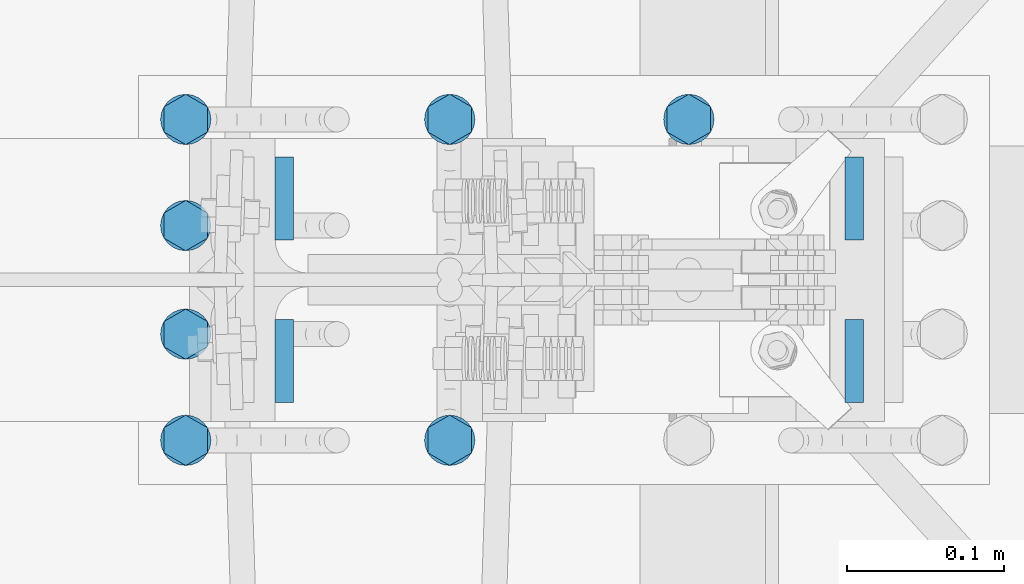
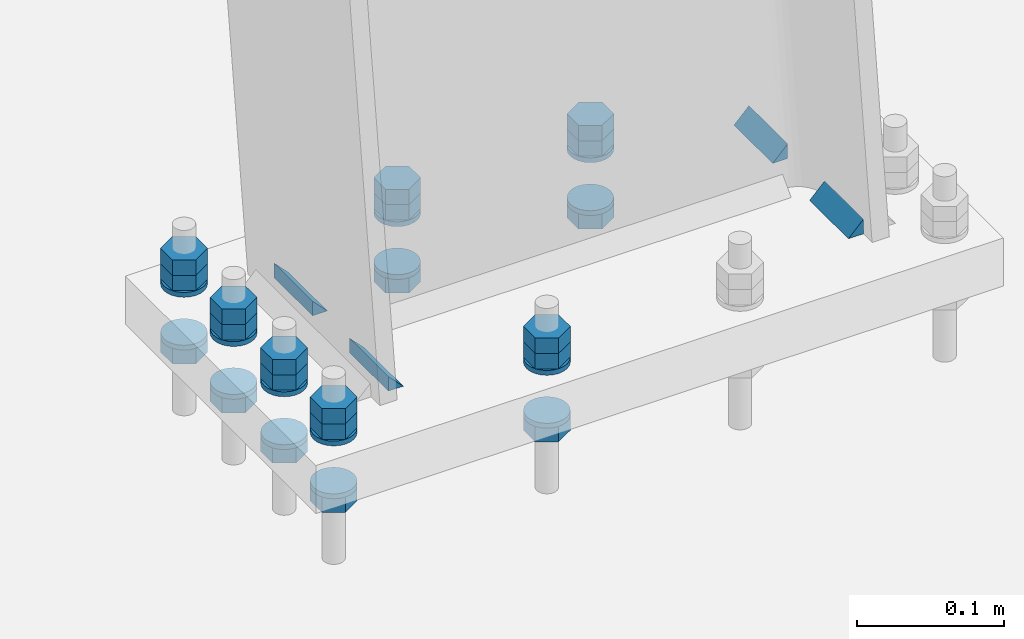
# One storey, part 34 of 72: 35 mechanical fasteners, 8 fasteners.
"""IFC4 building model written with IfcOpenShell, lengths in metres."""

from ifc_helpers import new_model, si_unit, frame, origin_with_axes, place, context, project, spatial, polyline, outline, extrude, type_object, element, save


model = new_model("IFC4")

# Units and contexts
model_context = context("Model", 3, precision=1e-05, world=origin_with_axes())
ifc_project = project(units=[si_unit("LENGTHUNIT", "METRE"), si_unit("AREAUNIT", "SQUARE_METRE"), si_unit("VOLUMEUNIT", "CUBIC_METRE"), si_unit("MASSUNIT", "GRAM", prefix="KILO"), si_unit("TIMEUNIT", "SECOND"), si_unit("PLANEANGLEUNIT", "RADIAN"), si_unit("SOLIDANGLEUNIT", "STERADIAN"), si_unit("THERMODYNAMICTEMPERATUREUNIT", "DEGREE_CELSIUS")], contexts=[model_context])

# Site, building, storey
placement_1 = place(None, origin_with_axes())
site = spatial("IfcSite", under=ifc_project, at=placement_1, Name="Italia", CompositionType="ELEMENT")
building = spatial("IfcBuilding", under=site, at=placement_1, Name="Pensilina", CompositionType="ELEMENT")
storey = spatial("IfcBuildingStorey", under=building, at=placement_1, Name="Storey 0", CompositionType="ELEMENT", Elevation=0.0)

# Fasteners
fastener_type_1 = type_object("IfcFastenerType", Name="Collegamento 0002_-197", PredefinedType="WELD")
placement_2 = place(placement_1, origin_with_axes())
fastener_1_placement = place(placement_2, origin_with_axes())
element("IfcFastener", 1, at=fastener_1_placement, inside=storey, type_object=fastener_type_1, Name="Collegamento 0002_-197", context=model_context, shape_type="SweptSolid", body=[
    extrude(outline(polyline([(0.0, 0.0, 0.0), (0.0118082, 0.0121734, 0.0), (0.0118082, 0.0, 0.0), (0.0, 0.0, 0.0)])), frame((1.10723, 5.25475, 0.103658), z_axis=(0.0, -1.0, 0.0), x_axis=(1.0, 0.0, 0.0)), (0.0, 0.0, 1.0), 0.0528002),
])
fastener_type_2 = type_object("IfcFastenerType", Name="Collegamento 0002_-197", PredefinedType="WELD")
fastener_2_placement = place(placement_2, origin_with_axes())
element("IfcFastener", 2, at=fastener_2_placement, inside=storey, type_object=fastener_type_2, Name="Collegamento 0002_-197", context=model_context, shape_type="SweptSolid", body=[
    extrude(outline(polyline([(0.0, 0.0, 0.0), (0.0118082, 0.0121734, 0.0), (0.0118082, 0.0, 0.0), (0.0, 0.0, 0.0)])), frame((0.756865, 5.20195, 0.103658), z_axis=(0.0, 1.0, 0.0), x_axis=(-1.0, 0.0, 0.0)), (0.0, 0.0, 1.0), 0.0528002),
])
fastener_type_3 = type_object("IfcFastenerType", Name="Collegamento 0002_-197", PredefinedType="WELD")
fastener_3_placement = place(placement_2, origin_with_axes())
element("IfcFastener", 3, at=fastener_3_placement, inside=storey, type_object=fastener_type_3, Name="Collegamento 0002_-197", context=model_context, shape_type="SweptSolid", body=[
    extrude(outline(polyline([(0.0, 0.0, 0.0), (0.0118082, 0.0121734, 0.0), (0.0118082, 0.0, 0.0), (0.0, 0.0, 0.0)])), frame((0.756865, 5.30525, 0.103658), z_axis=(0.0, 1.0, 0.0), x_axis=(-1.0, 0.0, 0.0)), (0.0, 0.0, 1.0), 0.0528002),
])
fastener_type_4 = type_object("IfcFastenerType", Name="Collegamento 0002_-197", PredefinedType="WELD")
fastener_4_placement = place(placement_2, origin_with_axes())
element("IfcFastener", 4, at=fastener_4_placement, inside=storey, type_object=fastener_type_4, Name="Collegamento 0002_-197", context=model_context, shape_type="SweptSolid", body=[
    extrude(outline(polyline([(0.0, 0.0, 0.0), (0.0118082, 0.0121734, 0.0), (0.0118082, 0.0, 0.0), (0.0, 0.0, 0.0)])), frame((1.10723, 5.35805, 0.103658), z_axis=(0.0, -1.0, 0.0), x_axis=(1.0, 0.0, 0.0)), (0.0, 0.0, 1.0), 0.0528002),
])
fastener_type_5 = type_object("IfcFastenerType", Name="Collegamento 0002_-197", PredefinedType="WELD")
fastener_5_placement = place(placement_2, origin_with_axes())
element("IfcFastener", 5, at=fastener_5_placement, inside=storey, type_object=fastener_type_5, Name="Collegamento 0002_-197", context=model_context, shape_type="SweptSolid", body=[
    extrude(outline(polyline([(0.0, 0.0, 0.0), (0.0118082, 0.0121734, 0.0), (0.0118082, 0.0, 0.0), (0.0, 0.0, 0.0)])), frame((1.10723, 5.25475, 0.103658), z_axis=(0.0, -1.0, 0.0), x_axis=(1.0, 0.0, 0.0)), (0.0, 0.0, 1.0), 0.0528002),
])
fastener_type_6 = type_object("IfcFastenerType", Name="Collegamento 0002_-197", PredefinedType="WELD")
fastener_6_placement = place(placement_2, origin_with_axes())
element("IfcFastener", 6, at=fastener_6_placement, inside=storey, type_object=fastener_type_6, Name="Collegamento 0002_-197", context=model_context, shape_type="SweptSolid", body=[
    extrude(outline(polyline([(0.0, 0.0, 0.0), (0.0118082, 0.0121734, 0.0), (0.0118082, 0.0, 0.0), (0.0, 0.0, 0.0)])), frame((0.756865, 5.20195, 0.103658), z_axis=(0.0, 1.0, 0.0), x_axis=(-1.0, 0.0, 0.0)), (0.0, 0.0, 1.0), 0.0528002),
])
fastener_type_7 = type_object("IfcFastenerType", Name="Collegamento 0002_-197", PredefinedType="WELD")
fastener_7_placement = place(placement_2, origin_with_axes())
element("IfcFastener", 7, at=fastener_7_placement, inside=storey, type_object=fastener_type_7, Name="Collegamento 0002_-197", context=model_context, shape_type="SweptSolid", body=[
    extrude(outline(polyline([(0.0, 0.0, 0.0), (0.0118082, 0.0121734, 0.0), (0.0118082, 0.0, 0.0), (0.0, 0.0, 0.0)])), frame((0.756865, 5.30525, 0.103658), z_axis=(0.0, 1.0, 0.0), x_axis=(-1.0, 0.0, 0.0)), (0.0, 0.0, 1.0), 0.0528002),
])
fastener_type_8 = type_object("IfcFastenerType", Name="Collegamento 0002_-197", PredefinedType="WELD")
fastener_8_placement = place(placement_2, origin_with_axes())
element("IfcFastener", 8, at=fastener_8_placement, inside=storey, type_object=fastener_type_8, Name="Collegamento 0002_-197", context=model_context, shape_type="SweptSolid", body=[
    extrude(outline(polyline([(0.0, 0.0, 0.0), (0.0118082, 0.0121734, 0.0), (0.0118082, 0.0, 0.0), (0.0, 0.0, 0.0)])), frame((1.10723, 5.35805, 0.103658), z_axis=(0.0, -1.0, 0.0), x_axis=(1.0, 0.0, 0.0)), (0.0, 0.0, 1.0), 0.0528002),
])

# Mechanical fasteners
mechanical_fastener_type_1 = type_object("IfcMechanicalFastenerType", Name="Collegamento 0002_-197", PredefinedType="BOLT")
mechanical_fastener_1_placement = place(placement_2, origin_with_axes())
element("IfcMechanicalFastener", 9, at=mechanical_fastener_1_placement, inside=storey, type_object=mechanical_fastener_type_1, Name="Collegamento 0002_-197", NominalDiameter=0.016, context=model_context, shape_type="SweptSolid", body=[
    extrude(outline(polyline([(0.0, 0.0, 0.0), (0.0160003, 0.0, 0.0), (0.0240002, -0.0138564, 0.0), (0.0160003, -0.0277128, 0.0), (0.0, -0.0277128, 0.0), (-0.0079999, -0.0138564, 0.0), (0.0, 0.0, 0.0)])), frame((0.674373, 5.374, 0.107708), z_axis=(0.0, 0.0, 1.0), x_axis=(0.0, 1.0, 0.0)), (0.0, 0.0, 1.0), 0.0128),
])
mechanical_fastener_type_2 = type_object("IfcMechanicalFastenerType", Name="Collegamento 0002_-197", PredefinedType="BOLT")
mechanical_fastener_2_placement = place(placement_2, origin_with_axes())
element("IfcMechanicalFastener", 10, at=mechanical_fastener_2_placement, inside=storey, type_object=mechanical_fastener_type_2, Name="Collegamento 0002_-197", NominalDiameter=0.016, context=model_context, shape_type="SweptSolid", body=[
    extrude(outline(polyline([(0.0, 0.0, 0.0), (0.0160003, 0.0, 0.0), (0.0240002, -0.0138564, 0.0), (0.0160003, -0.0277128, 0.0), (0.0, -0.0277128, 0.0), (-0.0079999, -0.0138564, 0.0), (0.0, 0.0, 0.0)])), frame((0.674373, 5.374, 0.120508), z_axis=(0.0, 0.0, 1.0), x_axis=(0.0, 1.0, 0.0)), (0.0, 0.0, 1.0), 0.0128),
])
mechanical_fastener_type_3 = type_object("IfcMechanicalFastenerType", Name="Collegamento 0002_-197", PredefinedType="BOLT")
mechanical_fastener_3_placement = place(placement_2, origin_with_axes())
element("IfcMechanicalFastener", 11, at=mechanical_fastener_3_placement, inside=storey, type_object=mechanical_fastener_type_3, Name="Collegamento 0002_-197", NominalDiameter=0.016, context=model_context, shape_type="SweptSolid", body=[
    extrude(outline(polyline([(0.0, 0.0, 0.0), (0.0160003, 0.0, 0.0), (0.0240002, -0.0138564, 0.0), (0.0160003, -0.0277128, 0.0), (0.0, -0.0277128, 0.0), (-0.0079999, -0.0138564, 0.0), (0.0, 0.0, 0.0)])), frame((0.674373, 5.374, 0.0469081), z_axis=(0.0, 0.0, 1.0), x_axis=(0.0, 1.0, 0.0)), (0.0, 0.0, 1.0), 0.0128),
])
mechanical_fastener_type_4 = type_object("IfcMechanicalFastenerType", Name="Collegamento 0002_-197", PredefinedType="BOLT")
mechanical_fastener_4_placement = place(placement_2, origin_with_axes())
element("IfcMechanicalFastener", 12, at=mechanical_fastener_4_placement, inside=storey, type_object=mechanical_fastener_type_4, Name="Collegamento 0002_-197", NominalDiameter=0.032, context=model_context, shape_type="SweptSolid", body=[
    extrude(outline(polyline([(0.0, 0.0, 0.0), (-0.000545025, -0.00414109, 0.0), (-0.00214338, -0.00800002, 0.0), (-0.00468588, -0.0113137, 0.0), (-0.0079999, -0.0138564, 0.0), (-0.0118585, -0.0154548, 0.0), (-0.0159998, -0.016, 0.0), (-0.0201411, -0.0154548, 0.0), (-0.0239997, -0.0138564, 0.0), (-0.0273137, -0.0113137, 0.0), (-0.0298562, -0.00800002, 0.0), (-0.0314546, -0.00414109, 0.0), (-0.0319996, 0.0, 0.0), (-0.0314546, 0.00414109, 0.0), (-0.0298562, 0.00800002, 0.0), (-0.0273137, 0.0113137, 0.0), (-0.0239997, 0.0138564, 0.0), (-0.0201411, 0.0154548, 0.0), (-0.0159998, 0.016, 0.0), (-0.0118585, 0.0154548, 0.0), (-0.0079999, 0.0138564, 0.0), (-0.00468588, 0.0113137, 0.0), (-0.00214338, 0.00800002, 0.0), (-0.000545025, 0.00414109, 0.0), (0.0, 0.0, 0.0)])), frame((0.68823, 5.398, 0.103708), z_axis=(0.0, 0.0, 1.0), x_axis=(0.0, 1.0, 0.0)), (0.0, 0.0, 1.0), 0.004),
])
mechanical_fastener_type_5 = type_object("IfcMechanicalFastenerType", Name="Collegamento 0002_-197", PredefinedType="BOLT")
mechanical_fastener_5_placement = place(placement_2, origin_with_axes())
element("IfcMechanicalFastener", 13, at=mechanical_fastener_5_placement, inside=storey, type_object=mechanical_fastener_type_5, Name="Collegamento 0002_-197", NominalDiameter=0.032, context=model_context, shape_type="SweptSolid", body=[
    extrude(outline(polyline([(0.0, 0.0, 0.0), (-0.000545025, -0.00414109, 0.0), (-0.00214338, -0.00800002, 0.0), (-0.00468588, -0.0113137, 0.0), (-0.0079999, -0.0138564, 0.0), (-0.0118585, -0.0154548, 0.0), (-0.0159998, -0.016, 0.0), (-0.0201411, -0.0154548, 0.0), (-0.0239997, -0.0138564, 0.0), (-0.0273137, -0.0113137, 0.0), (-0.0298562, -0.00800002, 0.0), (-0.0314546, -0.00414109, 0.0), (-0.0319996, 0.0, 0.0), (-0.0314546, 0.00414109, 0.0), (-0.0298562, 0.00800002, 0.0), (-0.0273137, 0.0113137, 0.0), (-0.0239997, 0.0138564, 0.0), (-0.0201411, 0.0154548, 0.0), (-0.0159998, 0.016, 0.0), (-0.0118585, 0.0154548, 0.0), (-0.0079999, 0.0138564, 0.0), (-0.00468588, 0.0113137, 0.0), (-0.00214338, 0.00800002, 0.0), (-0.000545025, 0.00414109, 0.0), (0.0, 0.0, 0.0)])), frame((0.68823, 5.398, 0.0597081), z_axis=(0.0, 0.0, 1.0), x_axis=(0.0, 1.0, 0.0)), (0.0, 0.0, 1.0), 0.004),
])
mechanical_fastener_type_6 = type_object("IfcMechanicalFastenerType", Name="Collegamento 0002_-197", PredefinedType="BOLT")
mechanical_fastener_6_placement = place(placement_2, origin_with_axes())
element("IfcMechanicalFastener", 14, at=mechanical_fastener_6_placement, inside=storey, type_object=mechanical_fastener_type_6, Name="Collegamento 0002_-197", NominalDiameter=0.0159998, context=model_context, shape_type="SweptSolid", body=[
    extrude(outline(polyline([(0.0, 0.0, 0.0), (0.0159998, 0.0, 0.0), (0.0239997, -0.0138564, 0.0), (0.0159998, -0.0277128, 0.0), (0.0, -0.0277128, 0.0), (-0.00800037, -0.0138564, 0.0), (0.0, 0.0, 0.0)])), frame((0.674373, 5.3065, 0.107708), z_axis=(0.0, 0.0, 1.0), x_axis=(0.0, 1.0, 0.0)), (0.0, 0.0, 1.0), 0.0128),
])
mechanical_fastener_type_7 = type_object("IfcMechanicalFastenerType", Name="Collegamento 0002_-197", PredefinedType="BOLT")
mechanical_fastener_7_placement = place(placement_2, origin_with_axes())
element("IfcMechanicalFastener", 15, at=mechanical_fastener_7_placement, inside=storey, type_object=mechanical_fastener_type_7, Name="Collegamento 0002_-197", NominalDiameter=0.0159998, context=model_context, shape_type="SweptSolid", body=[
    extrude(outline(polyline([(0.0, 0.0, 0.0), (0.0159998, 0.0, 0.0), (0.0239997, -0.0138564, 0.0), (0.0159998, -0.0277128, 0.0), (0.0, -0.0277128, 0.0), (-0.00800037, -0.0138564, 0.0), (0.0, 0.0, 0.0)])), frame((0.674373, 5.3065, 0.120508), z_axis=(0.0, 0.0, 1.0), x_axis=(0.0, 1.0, 0.0)), (0.0, 0.0, 1.0), 0.0128),
])
mechanical_fastener_type_8 = type_object("IfcMechanicalFastenerType", Name="Collegamento 0002_-197", PredefinedType="BOLT")
mechanical_fastener_8_placement = place(placement_2, origin_with_axes())
element("IfcMechanicalFastener", 16, at=mechanical_fastener_8_placement, inside=storey, type_object=mechanical_fastener_type_8, Name="Collegamento 0002_-197", NominalDiameter=0.0159998, context=model_context, shape_type="SweptSolid", body=[
    extrude(outline(polyline([(0.0, 0.0, 0.0), (0.0159998, 0.0, 0.0), (0.0239997, -0.0138564, 0.0), (0.0159998, -0.0277128, 0.0), (0.0, -0.0277128, 0.0), (-0.00800037, -0.0138564, 0.0), (0.0, 0.0, 0.0)])), frame((0.674373, 5.3065, 0.0469081), z_axis=(0.0, 0.0, 1.0), x_axis=(0.0, 1.0, 0.0)), (0.0, 0.0, 1.0), 0.0128),
])
mechanical_fastener_type_9 = type_object("IfcMechanicalFastenerType", Name="Collegamento 0002_-197", PredefinedType="BOLT")
mechanical_fastener_9_placement = place(placement_2, origin_with_axes())
element("IfcMechanicalFastener", 17, at=mechanical_fastener_9_placement, inside=storey, type_object=mechanical_fastener_type_9, Name="Collegamento 0002_-197", NominalDiameter=0.032, context=model_context, shape_type="SweptSolid", body=[
    extrude(outline(polyline([(0.0, 0.0, 0.0), (-0.000545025, -0.00414109, 0.0), (-0.00214338, -0.00800002, 0.0), (-0.00468588, -0.0113137, 0.0), (-0.0079999, -0.0138564, 0.0), (-0.0118585, -0.0154548, 0.0), (-0.0159998, -0.016, 0.0), (-0.0201411, -0.0154548, 0.0), (-0.0239997, -0.0138564, 0.0), (-0.0273137, -0.0113137, 0.0), (-0.0298562, -0.00800002, 0.0), (-0.0314546, -0.00414109, 0.0), (-0.0319996, 0.0, 0.0), (-0.0314546, 0.00414109, 0.0), (-0.0298562, 0.00800002, 0.0), (-0.0273137, 0.0113137, 0.0), (-0.0239997, 0.0138564, 0.0), (-0.0201411, 0.0154548, 0.0), (-0.0159998, 0.016, 0.0), (-0.0118585, 0.0154548, 0.0), (-0.0079999, 0.0138564, 0.0), (-0.00468588, 0.0113137, 0.0), (-0.00214338, 0.00800002, 0.0), (-0.000545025, 0.00414109, 0.0), (0.0, 0.0, 0.0)])), frame((0.68823, 5.3305, 0.103708), z_axis=(0.0, 0.0, 1.0), x_axis=(0.0, 1.0, 0.0)), (0.0, 0.0, 1.0), 0.004),
])
mechanical_fastener_type_10 = type_object("IfcMechanicalFastenerType", Name="Collegamento 0002_-197", PredefinedType="BOLT")
mechanical_fastener_10_placement = place(placement_2, origin_with_axes())
element("IfcMechanicalFastener", 18, at=mechanical_fastener_10_placement, inside=storey, type_object=mechanical_fastener_type_10, Name="Collegamento 0002_-197", NominalDiameter=0.032, context=model_context, shape_type="SweptSolid", body=[
    extrude(outline(polyline([(0.0, 0.0, 0.0), (-0.000545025, -0.00414109, 0.0), (-0.00214338, -0.00800002, 0.0), (-0.00468588, -0.0113137, 0.0), (-0.0079999, -0.0138564, 0.0), (-0.0118585, -0.0154548, 0.0), (-0.0159998, -0.016, 0.0), (-0.0201411, -0.0154548, 0.0), (-0.0239997, -0.0138564, 0.0), (-0.0273137, -0.0113137, 0.0), (-0.0298562, -0.00800002, 0.0), (-0.0314546, -0.00414109, 0.0), (-0.0319996, 0.0, 0.0), (-0.0314546, 0.00414109, 0.0), (-0.0298562, 0.00800002, 0.0), (-0.0273137, 0.0113137, 0.0), (-0.0239997, 0.0138564, 0.0), (-0.0201411, 0.0154548, 0.0), (-0.0159998, 0.016, 0.0), (-0.0118585, 0.0154548, 0.0), (-0.0079999, 0.0138564, 0.0), (-0.00468588, 0.0113137, 0.0), (-0.00214338, 0.00800002, 0.0), (-0.000545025, 0.00414109, 0.0), (0.0, 0.0, 0.0)])), frame((0.68823, 5.3305, 0.0597081), z_axis=(0.0, 0.0, 1.0), x_axis=(0.0, 1.0, 0.0)), (0.0, 0.0, 1.0), 0.004),
])
mechanical_fastener_type_11 = type_object("IfcMechanicalFastenerType", Name="Collegamento 0002_-197", PredefinedType="BOLT")
mechanical_fastener_11_placement = place(placement_2, origin_with_axes())
element("IfcMechanicalFastener", 19, at=mechanical_fastener_11_placement, inside=storey, type_object=mechanical_fastener_type_11, Name="Collegamento 0002_-197", NominalDiameter=0.0159998, context=model_context, shape_type="SweptSolid", body=[
    extrude(outline(polyline([(0.0, 0.0, 0.0), (0.0159998, 0.0, 0.0), (0.0240002, -0.0138564, 0.0), (0.0159998, -0.0277128, 0.0), (0.0, -0.0277128, 0.0), (-0.0079999, -0.0138564, 0.0), (0.0, 0.0, 0.0)])), frame((0.674373, 5.2375, 0.107708), z_axis=(0.0, 0.0, 1.0), x_axis=(0.0, 1.0, 0.0)), (0.0, 0.0, 1.0), 0.0128),
])
mechanical_fastener_type_12 = type_object("IfcMechanicalFastenerType", Name="Collegamento 0002_-197", PredefinedType="BOLT")
mechanical_fastener_12_placement = place(placement_2, origin_with_axes())
element("IfcMechanicalFastener", 20, at=mechanical_fastener_12_placement, inside=storey, type_object=mechanical_fastener_type_12, Name="Collegamento 0002_-197", NominalDiameter=0.0159998, context=model_context, shape_type="SweptSolid", body=[
    extrude(outline(polyline([(0.0, 0.0, 0.0), (0.0159998, 0.0, 0.0), (0.0240002, -0.0138564, 0.0), (0.0159998, -0.0277128, 0.0), (0.0, -0.0277128, 0.0), (-0.0079999, -0.0138564, 0.0), (0.0, 0.0, 0.0)])), frame((0.674373, 5.2375, 0.120508), z_axis=(0.0, 0.0, 1.0), x_axis=(0.0, 1.0, 0.0)), (0.0, 0.0, 1.0), 0.0128),
])
mechanical_fastener_type_13 = type_object("IfcMechanicalFastenerType", Name="Collegamento 0002_-197", PredefinedType="BOLT")
mechanical_fastener_13_placement = place(placement_2, origin_with_axes())
element("IfcMechanicalFastener", 21, at=mechanical_fastener_13_placement, inside=storey, type_object=mechanical_fastener_type_13, Name="Collegamento 0002_-197", NominalDiameter=0.0159998, context=model_context, shape_type="SweptSolid", body=[
    extrude(outline(polyline([(0.0, 0.0, 0.0), (0.0159998, 0.0, 0.0), (0.0240002, -0.0138564, 0.0), (0.0159998, -0.0277128, 0.0), (0.0, -0.0277128, 0.0), (-0.0079999, -0.0138564, 0.0), (0.0, 0.0, 0.0)])), frame((0.674373, 5.2375, 0.0469081), z_axis=(0.0, 0.0, 1.0), x_axis=(0.0, 1.0, 0.0)), (0.0, 0.0, 1.0), 0.0128),
])
mechanical_fastener_type_14 = type_object("IfcMechanicalFastenerType", Name="Collegamento 0002_-197", PredefinedType="BOLT")
mechanical_fastener_14_placement = place(placement_2, origin_with_axes())
element("IfcMechanicalFastener", 22, at=mechanical_fastener_14_placement, inside=storey, type_object=mechanical_fastener_type_14, Name="Collegamento 0002_-197", NominalDiameter=0.032, context=model_context, shape_type="SweptSolid", body=[
    extrude(outline(polyline([(0.0, 0.0, 0.0), (-0.000545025, -0.00414109, 0.0), (-0.00214338, -0.00800002, 0.0), (-0.00468588, -0.0113137, 0.0), (-0.0079999, -0.0138564, 0.0), (-0.0118585, -0.0154548, 0.0), (-0.0159998, -0.016, 0.0), (-0.0201411, -0.0154548, 0.0), (-0.0239997, -0.0138564, 0.0), (-0.0273137, -0.0113137, 0.0), (-0.0298562, -0.00800002, 0.0), (-0.0314546, -0.00414109, 0.0), (-0.0319996, 0.0, 0.0), (-0.0314546, 0.00414109, 0.0), (-0.0298562, 0.00800002, 0.0), (-0.0273137, 0.0113137, 0.0), (-0.0239997, 0.0138564, 0.0), (-0.0201411, 0.0154548, 0.0), (-0.0159998, 0.016, 0.0), (-0.0118585, 0.0154548, 0.0), (-0.0079999, 0.0138564, 0.0), (-0.00468588, 0.0113137, 0.0), (-0.00214338, 0.00800002, 0.0), (-0.000545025, 0.00414109, 0.0), (0.0, 0.0, 0.0)])), frame((0.68823, 5.2615, 0.103708), z_axis=(0.0, 0.0, 1.0), x_axis=(0.0, 1.0, 0.0)), (0.0, 0.0, 1.0), 0.004),
])
mechanical_fastener_type_15 = type_object("IfcMechanicalFastenerType", Name="Collegamento 0002_-197", PredefinedType="BOLT")
mechanical_fastener_15_placement = place(placement_2, origin_with_axes())
element("IfcMechanicalFastener", 23, at=mechanical_fastener_15_placement, inside=storey, type_object=mechanical_fastener_type_15, Name="Collegamento 0002_-197", NominalDiameter=0.032, context=model_context, shape_type="SweptSolid", body=[
    extrude(outline(polyline([(0.0, 0.0, 0.0), (-0.000545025, -0.00414109, 0.0), (-0.00214338, -0.00800002, 0.0), (-0.00468588, -0.0113137, 0.0), (-0.0079999, -0.0138564, 0.0), (-0.0118585, -0.0154548, 0.0), (-0.0159998, -0.016, 0.0), (-0.0201411, -0.0154548, 0.0), (-0.0239997, -0.0138564, 0.0), (-0.0273137, -0.0113137, 0.0), (-0.0298562, -0.00800002, 0.0), (-0.0314546, -0.00414109, 0.0), (-0.0319996, 0.0, 0.0), (-0.0314546, 0.00414109, 0.0), (-0.0298562, 0.00800002, 0.0), (-0.0273137, 0.0113137, 0.0), (-0.0239997, 0.0138564, 0.0), (-0.0201411, 0.0154548, 0.0), (-0.0159998, 0.016, 0.0), (-0.0118585, 0.0154548, 0.0), (-0.0079999, 0.0138564, 0.0), (-0.00468588, 0.0113137, 0.0), (-0.00214338, 0.00800002, 0.0), (-0.000545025, 0.00414109, 0.0), (0.0, 0.0, 0.0)])), frame((0.68823, 5.2615, 0.0597081), z_axis=(0.0, 0.0, 1.0), x_axis=(0.0, 1.0, 0.0)), (0.0, 0.0, 1.0), 0.004),
])
mechanical_fastener_type_16 = type_object("IfcMechanicalFastenerType", Name="Collegamento 0002_-197", PredefinedType="BOLT")
mechanical_fastener_16_placement = place(placement_2, origin_with_axes())
element("IfcMechanicalFastener", 24, at=mechanical_fastener_16_placement, inside=storey, type_object=mechanical_fastener_type_16, Name="Collegamento 0002_-197", NominalDiameter=0.016, context=model_context, shape_type="SweptSolid", body=[
    extrude(outline(polyline([(0.0, 0.0, 0.0), (0.0160003, 0.0, 0.0), (0.0240002, -0.0138564, 0.0), (0.0160003, -0.0277128, 0.0), (0.0, -0.0277128, 0.0), (-0.0079999, -0.0138564, 0.0), (0.0, 0.0, 0.0)])), frame((0.674373, 5.17, 0.107708), z_axis=(0.0, 0.0, 1.0), x_axis=(0.0, 1.0, 0.0)), (0.0, 0.0, 1.0), 0.0128),
])
mechanical_fastener_type_17 = type_object("IfcMechanicalFastenerType", Name="Collegamento 0002_-197", PredefinedType="BOLT")
mechanical_fastener_17_placement = place(placement_2, origin_with_axes())
element("IfcMechanicalFastener", 25, at=mechanical_fastener_17_placement, inside=storey, type_object=mechanical_fastener_type_17, Name="Collegamento 0002_-197", NominalDiameter=0.016, context=model_context, shape_type="SweptSolid", body=[
    extrude(outline(polyline([(0.0, 0.0, 0.0), (0.0160003, 0.0, 0.0), (0.0240002, -0.0138564, 0.0), (0.0160003, -0.0277128, 0.0), (0.0, -0.0277128, 0.0), (-0.0079999, -0.0138564, 0.0), (0.0, 0.0, 0.0)])), frame((0.674373, 5.17, 0.120508), z_axis=(0.0, 0.0, 1.0), x_axis=(0.0, 1.0, 0.0)), (0.0, 0.0, 1.0), 0.0128),
])
mechanical_fastener_type_18 = type_object("IfcMechanicalFastenerType", Name="Collegamento 0002_-197", PredefinedType="BOLT")
mechanical_fastener_18_placement = place(placement_2, origin_with_axes())
element("IfcMechanicalFastener", 26, at=mechanical_fastener_18_placement, inside=storey, type_object=mechanical_fastener_type_18, Name="Collegamento 0002_-197", NominalDiameter=0.016, context=model_context, shape_type="SweptSolid", body=[
    extrude(outline(polyline([(0.0, 0.0, 0.0), (0.0160003, 0.0, 0.0), (0.0240002, -0.0138564, 0.0), (0.0160003, -0.0277128, 0.0), (0.0, -0.0277128, 0.0), (-0.0079999, -0.0138564, 0.0), (0.0, 0.0, 0.0)])), frame((0.674373, 5.17, 0.0469081), z_axis=(0.0, 0.0, 1.0), x_axis=(0.0, 1.0, 0.0)), (0.0, 0.0, 1.0), 0.0128),
])
mechanical_fastener_type_19 = type_object("IfcMechanicalFastenerType", Name="Collegamento 0002_-197", PredefinedType="BOLT")
mechanical_fastener_19_placement = place(placement_2, origin_with_axes())
element("IfcMechanicalFastener", 27, at=mechanical_fastener_19_placement, inside=storey, type_object=mechanical_fastener_type_19, Name="Collegamento 0002_-197", NominalDiameter=0.032, context=model_context, shape_type="SweptSolid", body=[
    extrude(outline(polyline([(0.0, 0.0, 0.0), (-0.000545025, -0.00414109, 0.0), (-0.00214338, -0.00800002, 0.0), (-0.00468588, -0.0113137, 0.0), (-0.0079999, -0.0138564, 0.0), (-0.0118585, -0.0154548, 0.0), (-0.0159998, -0.016, 0.0), (-0.0201411, -0.0154548, 0.0), (-0.0239997, -0.0138564, 0.0), (-0.0273137, -0.0113137, 0.0), (-0.0298562, -0.00800002, 0.0), (-0.0314546, -0.00414109, 0.0), (-0.0319996, 0.0, 0.0), (-0.0314546, 0.00414109, 0.0), (-0.0298562, 0.00800002, 0.0), (-0.0273137, 0.0113137, 0.0), (-0.0239997, 0.0138564, 0.0), (-0.0201411, 0.0154548, 0.0), (-0.0159998, 0.016, 0.0), (-0.0118585, 0.0154548, 0.0), (-0.0079999, 0.0138564, 0.0), (-0.00468588, 0.0113137, 0.0), (-0.00214338, 0.00800002, 0.0), (-0.000545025, 0.00414109, 0.0), (0.0, 0.0, 0.0)])), frame((0.68823, 5.194, 0.103708), z_axis=(0.0, 0.0, 1.0), x_axis=(0.0, 1.0, 0.0)), (0.0, 0.0, 1.0), 0.004),
])
mechanical_fastener_type_20 = type_object("IfcMechanicalFastenerType", Name="Collegamento 0002_-197", PredefinedType="BOLT")
mechanical_fastener_20_placement = place(placement_2, origin_with_axes())
element("IfcMechanicalFastener", 28, at=mechanical_fastener_20_placement, inside=storey, type_object=mechanical_fastener_type_20, Name="Collegamento 0002_-197", NominalDiameter=0.032, context=model_context, shape_type="SweptSolid", body=[
    extrude(outline(polyline([(0.0, 0.0, 0.0), (-0.000545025, -0.00414109, 0.0), (-0.00214338, -0.00800002, 0.0), (-0.00468588, -0.0113137, 0.0), (-0.0079999, -0.0138564, 0.0), (-0.0118585, -0.0154548, 0.0), (-0.0159998, -0.016, 0.0), (-0.0201411, -0.0154548, 0.0), (-0.0239997, -0.0138564, 0.0), (-0.0273137, -0.0113137, 0.0), (-0.0298562, -0.00800002, 0.0), (-0.0314546, -0.00414109, 0.0), (-0.0319996, 0.0, 0.0), (-0.0314546, 0.00414109, 0.0), (-0.0298562, 0.00800002, 0.0), (-0.0273137, 0.0113137, 0.0), (-0.0239997, 0.0138564, 0.0), (-0.0201411, 0.0154548, 0.0), (-0.0159998, 0.016, 0.0), (-0.0118585, 0.0154548, 0.0), (-0.0079999, 0.0138564, 0.0), (-0.00468588, 0.0113137, 0.0), (-0.00214338, 0.00800002, 0.0), (-0.000545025, 0.00414109, 0.0), (0.0, 0.0, 0.0)])), frame((0.68823, 5.194, 0.0597081), z_axis=(0.0, 0.0, 1.0), x_axis=(0.0, 1.0, 0.0)), (0.0, 0.0, 1.0), 0.004),
])
mechanical_fastener_type_21 = type_object("IfcMechanicalFastenerType", Name="Collegamento 0002_-197", PredefinedType="BOLT")
mechanical_fastener_21_placement = place(placement_2, origin_with_axes())
element("IfcMechanicalFastener", 29, at=mechanical_fastener_21_placement, inside=storey, type_object=mechanical_fastener_type_21, Name="Collegamento 0002_-197", NominalDiameter=0.016, context=model_context, shape_type="SweptSolid", body=[
    extrude(outline(polyline([(0.0, 0.0, 0.0), (0.0160003, 0.0, 0.0), (0.0240002, -0.0138564, 0.0), (0.0160003, -0.0277128, 0.0), (0.0, -0.0277128, 0.0), (-0.0079999, -0.0138564, 0.0), (0.0, 0.0, 0.0)])), frame((0.84219, 5.374, 0.107708), z_axis=(0.0, 0.0, 1.0), x_axis=(0.0, 1.0, 0.0)), (0.0, 0.0, 1.0), 0.0128),
])
mechanical_fastener_type_22 = type_object("IfcMechanicalFastenerType", Name="Collegamento 0002_-197", PredefinedType="BOLT")
mechanical_fastener_22_placement = place(placement_2, origin_with_axes())
element("IfcMechanicalFastener", 30, at=mechanical_fastener_22_placement, inside=storey, type_object=mechanical_fastener_type_22, Name="Collegamento 0002_-197", NominalDiameter=0.016, context=model_context, shape_type="SweptSolid", body=[
    extrude(outline(polyline([(0.0, 0.0, 0.0), (0.0160003, 0.0, 0.0), (0.0240002, -0.0138564, 0.0), (0.0160003, -0.0277128, 0.0), (0.0, -0.0277128, 0.0), (-0.0079999, -0.0138564, 0.0), (0.0, 0.0, 0.0)])), frame((0.84219, 5.374, 0.120508), z_axis=(0.0, 0.0, 1.0), x_axis=(0.0, 1.0, 0.0)), (0.0, 0.0, 1.0), 0.0128),
])
mechanical_fastener_type_23 = type_object("IfcMechanicalFastenerType", Name="Collegamento 0002_-197", PredefinedType="BOLT")
mechanical_fastener_23_placement = place(placement_2, origin_with_axes())
element("IfcMechanicalFastener", 31, at=mechanical_fastener_23_placement, inside=storey, type_object=mechanical_fastener_type_23, Name="Collegamento 0002_-197", NominalDiameter=0.016, context=model_context, shape_type="SweptSolid", body=[
    extrude(outline(polyline([(0.0, 0.0, 0.0), (0.0160003, 0.0, 0.0), (0.0240002, -0.0138564, 0.0), (0.0160003, -0.0277128, 0.0), (0.0, -0.0277128, 0.0), (-0.0079999, -0.0138564, 0.0), (0.0, 0.0, 0.0)])), frame((0.84219, 5.374, 0.0469081), z_axis=(0.0, 0.0, 1.0), x_axis=(0.0, 1.0, 0.0)), (0.0, 0.0, 1.0), 0.0128),
])
mechanical_fastener_type_24 = type_object("IfcMechanicalFastenerType", Name="Collegamento 0002_-197", PredefinedType="BOLT")
mechanical_fastener_24_placement = place(placement_2, origin_with_axes())
element("IfcMechanicalFastener", 32, at=mechanical_fastener_24_placement, inside=storey, type_object=mechanical_fastener_type_24, Name="Collegamento 0002_-197", NominalDiameter=0.032, context=model_context, shape_type="SweptSolid", body=[
    extrude(outline(polyline([(0.0, 0.0, 0.0), (-0.000545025, -0.00414109, 0.0), (-0.00214338, -0.00800002, 0.0), (-0.00468588, -0.0113137, 0.0), (-0.0079999, -0.0138564, 0.0), (-0.0118585, -0.0154548, 0.0), (-0.0159998, -0.016, 0.0), (-0.0201411, -0.0154548, 0.0), (-0.0239997, -0.0138564, 0.0), (-0.0273137, -0.0113137, 0.0), (-0.0298562, -0.00800002, 0.0), (-0.0314546, -0.00414109, 0.0), (-0.0319996, 0.0, 0.0), (-0.0314546, 0.00414109, 0.0), (-0.0298562, 0.00800002, 0.0), (-0.0273137, 0.0113137, 0.0), (-0.0239997, 0.0138564, 0.0), (-0.0201411, 0.0154548, 0.0), (-0.0159998, 0.016, 0.0), (-0.0118585, 0.0154548, 0.0), (-0.0079999, 0.0138564, 0.0), (-0.00468588, 0.0113137, 0.0), (-0.00214338, 0.00800002, 0.0), (-0.000545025, 0.00414109, 0.0), (0.0, 0.0, 0.0)])), frame((0.856047, 5.398, 0.103708), z_axis=(0.0, 0.0, 1.0), x_axis=(0.0, 1.0, 0.0)), (0.0, 0.0, 1.0), 0.004),
])
mechanical_fastener_type_25 = type_object("IfcMechanicalFastenerType", Name="Collegamento 0002_-197", PredefinedType="BOLT")
mechanical_fastener_25_placement = place(placement_2, origin_with_axes())
element("IfcMechanicalFastener", 33, at=mechanical_fastener_25_placement, inside=storey, type_object=mechanical_fastener_type_25, Name="Collegamento 0002_-197", NominalDiameter=0.032, context=model_context, shape_type="SweptSolid", body=[
    extrude(outline(polyline([(0.0, 0.0, 0.0), (-0.000545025, -0.00414109, 0.0), (-0.00214338, -0.00800002, 0.0), (-0.00468588, -0.0113137, 0.0), (-0.0079999, -0.0138564, 0.0), (-0.0118585, -0.0154548, 0.0), (-0.0159998, -0.016, 0.0), (-0.0201411, -0.0154548, 0.0), (-0.0239997, -0.0138564, 0.0), (-0.0273137, -0.0113137, 0.0), (-0.0298562, -0.00800002, 0.0), (-0.0314546, -0.00414109, 0.0), (-0.0319996, 0.0, 0.0), (-0.0314546, 0.00414109, 0.0), (-0.0298562, 0.00800002, 0.0), (-0.0273137, 0.0113137, 0.0), (-0.0239997, 0.0138564, 0.0), (-0.0201411, 0.0154548, 0.0), (-0.0159998, 0.016, 0.0), (-0.0118585, 0.0154548, 0.0), (-0.0079999, 0.0138564, 0.0), (-0.00468588, 0.0113137, 0.0), (-0.00214338, 0.00800002, 0.0), (-0.000545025, 0.00414109, 0.0), (0.0, 0.0, 0.0)])), frame((0.856047, 5.398, 0.0597081), z_axis=(0.0, 0.0, 1.0), x_axis=(0.0, 1.0, 0.0)), (0.0, 0.0, 1.0), 0.004),
])
mechanical_fastener_type_26 = type_object("IfcMechanicalFastenerType", Name="Collegamento 0002_-197", PredefinedType="BOLT")
mechanical_fastener_26_placement = place(placement_2, origin_with_axes())
element("IfcMechanicalFastener", 34, at=mechanical_fastener_26_placement, inside=storey, type_object=mechanical_fastener_type_26, Name="Collegamento 0002_-197", NominalDiameter=0.016, context=model_context, shape_type="SweptSolid", body=[
    extrude(outline(polyline([(0.0, 0.0, 0.0), (0.0160003, 0.0, 0.0), (0.0240002, -0.0138564, 0.0), (0.0160003, -0.0277128, 0.0), (0.0, -0.0277128, 0.0), (-0.0079999, -0.0138564, 0.0), (0.0, 0.0, 0.0)])), frame((0.84219, 5.17, 0.107708), z_axis=(0.0, 0.0, 1.0), x_axis=(0.0, 1.0, 0.0)), (0.0, 0.0, 1.0), 0.0128),
])
mechanical_fastener_type_27 = type_object("IfcMechanicalFastenerType", Name="Collegamento 0002_-197", PredefinedType="BOLT")
mechanical_fastener_27_placement = place(placement_2, origin_with_axes())
element("IfcMechanicalFastener", 35, at=mechanical_fastener_27_placement, inside=storey, type_object=mechanical_fastener_type_27, Name="Collegamento 0002_-197", NominalDiameter=0.016, context=model_context, shape_type="SweptSolid", body=[
    extrude(outline(polyline([(0.0, 0.0, 0.0), (0.0160003, 0.0, 0.0), (0.0240002, -0.0138564, 0.0), (0.0160003, -0.0277128, 0.0), (0.0, -0.0277128, 0.0), (-0.0079999, -0.0138564, 0.0), (0.0, 0.0, 0.0)])), frame((0.84219, 5.17, 0.120508), z_axis=(0.0, 0.0, 1.0), x_axis=(0.0, 1.0, 0.0)), (0.0, 0.0, 1.0), 0.0128),
])
mechanical_fastener_type_28 = type_object("IfcMechanicalFastenerType", Name="Collegamento 0002_-197", PredefinedType="BOLT")
mechanical_fastener_28_placement = place(placement_2, origin_with_axes())
element("IfcMechanicalFastener", 36, at=mechanical_fastener_28_placement, inside=storey, type_object=mechanical_fastener_type_28, Name="Collegamento 0002_-197", NominalDiameter=0.016, context=model_context, shape_type="SweptSolid", body=[
    extrude(outline(polyline([(0.0, 0.0, 0.0), (0.0160003, 0.0, 0.0), (0.0240002, -0.0138564, 0.0), (0.0160003, -0.0277128, 0.0), (0.0, -0.0277128, 0.0), (-0.0079999, -0.0138564, 0.0), (0.0, 0.0, 0.0)])), frame((0.84219, 5.17, 0.0469081), z_axis=(0.0, 0.0, 1.0), x_axis=(0.0, 1.0, 0.0)), (0.0, 0.0, 1.0), 0.0128),
])
mechanical_fastener_type_29 = type_object("IfcMechanicalFastenerType", Name="Collegamento 0002_-197", PredefinedType="BOLT")
mechanical_fastener_29_placement = place(placement_2, origin_with_axes())
element("IfcMechanicalFastener", 37, at=mechanical_fastener_29_placement, inside=storey, type_object=mechanical_fastener_type_29, Name="Collegamento 0002_-197", NominalDiameter=0.032, context=model_context, shape_type="SweptSolid", body=[
    extrude(outline(polyline([(0.0, 0.0, 0.0), (-0.000545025, -0.00414109, 0.0), (-0.00214338, -0.00800002, 0.0), (-0.00468588, -0.0113137, 0.0), (-0.0079999, -0.0138564, 0.0), (-0.0118585, -0.0154548, 0.0), (-0.0159998, -0.016, 0.0), (-0.0201411, -0.0154548, 0.0), (-0.0239997, -0.0138564, 0.0), (-0.0273137, -0.0113137, 0.0), (-0.0298562, -0.00800002, 0.0), (-0.0314546, -0.00414109, 0.0), (-0.0319996, 0.0, 0.0), (-0.0314546, 0.00414109, 0.0), (-0.0298562, 0.00800002, 0.0), (-0.0273137, 0.0113137, 0.0), (-0.0239997, 0.0138564, 0.0), (-0.0201411, 0.0154548, 0.0), (-0.0159998, 0.016, 0.0), (-0.0118585, 0.0154548, 0.0), (-0.0079999, 0.0138564, 0.0), (-0.00468588, 0.0113137, 0.0), (-0.00214338, 0.00800002, 0.0), (-0.000545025, 0.00414109, 0.0), (0.0, 0.0, 0.0)])), frame((0.856047, 5.194, 0.103708), z_axis=(0.0, 0.0, 1.0), x_axis=(0.0, 1.0, 0.0)), (0.0, 0.0, 1.0), 0.004),
])
mechanical_fastener_type_30 = type_object("IfcMechanicalFastenerType", Name="Collegamento 0002_-197", PredefinedType="BOLT")
mechanical_fastener_30_placement = place(placement_2, origin_with_axes())
element("IfcMechanicalFastener", 38, at=mechanical_fastener_30_placement, inside=storey, type_object=mechanical_fastener_type_30, Name="Collegamento 0002_-197", NominalDiameter=0.032, context=model_context, shape_type="SweptSolid", body=[
    extrude(outline(polyline([(0.0, 0.0, 0.0), (-0.000545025, -0.00414109, 0.0), (-0.00214338, -0.00800002, 0.0), (-0.00468588, -0.0113137, 0.0), (-0.0079999, -0.0138564, 0.0), (-0.0118585, -0.0154548, 0.0), (-0.0159998, -0.016, 0.0), (-0.0201411, -0.0154548, 0.0), (-0.0239997, -0.0138564, 0.0), (-0.0273137, -0.0113137, 0.0), (-0.0298562, -0.00800002, 0.0), (-0.0314546, -0.00414109, 0.0), (-0.0319996, 0.0, 0.0), (-0.0314546, 0.00414109, 0.0), (-0.0298562, 0.00800002, 0.0), (-0.0273137, 0.0113137, 0.0), (-0.0239997, 0.0138564, 0.0), (-0.0201411, 0.0154548, 0.0), (-0.0159998, 0.016, 0.0), (-0.0118585, 0.0154548, 0.0), (-0.0079999, 0.0138564, 0.0), (-0.00468588, 0.0113137, 0.0), (-0.00214338, 0.00800002, 0.0), (-0.000545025, 0.00414109, 0.0), (0.0, 0.0, 0.0)])), frame((0.856047, 5.194, 0.0597081), z_axis=(0.0, 0.0, 1.0), x_axis=(0.0, 1.0, 0.0)), (0.0, 0.0, 1.0), 0.004),
])
mechanical_fastener_type_31 = type_object("IfcMechanicalFastenerType", Name="Collegamento 0002_-197", PredefinedType="BOLT")
mechanical_fastener_31_placement = place(placement_2, origin_with_axes())
element("IfcMechanicalFastener", 39, at=mechanical_fastener_31_placement, inside=storey, type_object=mechanical_fastener_type_31, Name="Collegamento 0002_-197", NominalDiameter=0.016, context=model_context, shape_type="SweptSolid", body=[
    extrude(outline(polyline([(0.0, 0.0, 0.0), (0.0160003, 0.0, 0.0), (0.0240002, -0.0138565, 0.0), (0.0160003, -0.0277129, 0.0), (0.0, -0.0277129, 0.0), (-0.0079999, -0.0138565, 0.0), (0.0, 0.0, 0.0)])), frame((0.99419, 5.374, 0.107708), z_axis=(0.0, 0.0, 1.0), x_axis=(0.0, 1.0, 0.0)), (0.0, 0.0, 1.0), 0.0128),
])
mechanical_fastener_type_32 = type_object("IfcMechanicalFastenerType", Name="Collegamento 0002_-197", PredefinedType="BOLT")
mechanical_fastener_32_placement = place(placement_2, origin_with_axes())
element("IfcMechanicalFastener", 40, at=mechanical_fastener_32_placement, inside=storey, type_object=mechanical_fastener_type_32, Name="Collegamento 0002_-197", NominalDiameter=0.016, context=model_context, shape_type="SweptSolid", body=[
    extrude(outline(polyline([(0.0, 0.0, 0.0), (0.0160003, 0.0, 0.0), (0.0240002, -0.0138565, 0.0), (0.0160003, -0.0277129, 0.0), (0.0, -0.0277129, 0.0), (-0.0079999, -0.0138565, 0.0), (0.0, 0.0, 0.0)])), frame((0.99419, 5.374, 0.120508), z_axis=(0.0, 0.0, 1.0), x_axis=(0.0, 1.0, 0.0)), (0.0, 0.0, 1.0), 0.0128),
])
mechanical_fastener_type_33 = type_object("IfcMechanicalFastenerType", Name="Collegamento 0002_-197", PredefinedType="BOLT")
mechanical_fastener_33_placement = place(placement_2, origin_with_axes())
element("IfcMechanicalFastener", 41, at=mechanical_fastener_33_placement, inside=storey, type_object=mechanical_fastener_type_33, Name="Collegamento 0002_-197", NominalDiameter=0.016, context=model_context, shape_type="SweptSolid", body=[
    extrude(outline(polyline([(0.0, 0.0, 0.0), (0.0160003, 0.0, 0.0), (0.0240002, -0.0138565, 0.0), (0.0160003, -0.0277129, 0.0), (0.0, -0.0277129, 0.0), (-0.0079999, -0.0138565, 0.0), (0.0, 0.0, 0.0)])), frame((0.99419, 5.374, 0.0469081), z_axis=(0.0, 0.0, 1.0), x_axis=(0.0, 1.0, 0.0)), (0.0, 0.0, 1.0), 0.0128),
])
mechanical_fastener_type_34 = type_object("IfcMechanicalFastenerType", Name="Collegamento 0002_-197", PredefinedType="BOLT")
mechanical_fastener_34_placement = place(placement_2, origin_with_axes())
element("IfcMechanicalFastener", 42, at=mechanical_fastener_34_placement, inside=storey, type_object=mechanical_fastener_type_34, Name="Collegamento 0002_-197", NominalDiameter=0.032, context=model_context, shape_type="SweptSolid", body=[
    extrude(outline(polyline([(0.0, 0.0, 0.0), (-0.000545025, -0.00414109, 0.0), (-0.00214338, -0.00800002, 0.0), (-0.00468588, -0.0113137, 0.0), (-0.0079999, -0.0138564, 0.0), (-0.0118585, -0.0154548, 0.0), (-0.0159998, -0.016, 0.0), (-0.0201411, -0.0154548, 0.0), (-0.0239997, -0.0138564, 0.0), (-0.0273137, -0.0113137, 0.0), (-0.0298562, -0.00800002, 0.0), (-0.0314546, -0.00414109, 0.0), (-0.0319996, 0.0, 0.0), (-0.0314546, 0.00414109, 0.0), (-0.0298562, 0.00800002, 0.0), (-0.0273137, 0.0113137, 0.0), (-0.0239997, 0.0138564, 0.0), (-0.0201411, 0.0154548, 0.0), (-0.0159998, 0.016, 0.0), (-0.0118585, 0.0154548, 0.0), (-0.0079999, 0.0138564, 0.0), (-0.00468588, 0.0113137, 0.0), (-0.00214338, 0.00800002, 0.0), (-0.000545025, 0.00414109, 0.0), (0.0, 0.0, 0.0)])), frame((1.00805, 5.398, 0.103708), z_axis=(0.0, 0.0, 1.0), x_axis=(0.0, 1.0, 0.0)), (0.0, 0.0, 1.0), 0.004),
])
mechanical_fastener_type_35 = type_object("IfcMechanicalFastenerType", Name="Collegamento 0002_-197", PredefinedType="BOLT")
mechanical_fastener_35_placement = place(placement_2, origin_with_axes())
element("IfcMechanicalFastener", 43, at=mechanical_fastener_35_placement, inside=storey, type_object=mechanical_fastener_type_35, Name="Collegamento 0002_-197", NominalDiameter=0.032, context=model_context, shape_type="SweptSolid", body=[
    extrude(outline(polyline([(0.0, 0.0, 0.0), (-0.000545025, -0.00414109, 0.0), (-0.00214338, -0.00800002, 0.0), (-0.00468588, -0.0113137, 0.0), (-0.0079999, -0.0138564, 0.0), (-0.0118585, -0.0154548, 0.0), (-0.0159998, -0.016, 0.0), (-0.0201411, -0.0154548, 0.0), (-0.0239997, -0.0138564, 0.0), (-0.0273137, -0.0113137, 0.0), (-0.0298562, -0.00800002, 0.0), (-0.0314546, -0.00414109, 0.0), (-0.0319996, 0.0, 0.0), (-0.0314546, 0.00414109, 0.0), (-0.0298562, 0.00800002, 0.0), (-0.0273137, 0.0113137, 0.0), (-0.0239997, 0.0138564, 0.0), (-0.0201411, 0.0154548, 0.0), (-0.0159998, 0.016, 0.0), (-0.0118585, 0.0154548, 0.0), (-0.0079999, 0.0138564, 0.0), (-0.00468588, 0.0113137, 0.0), (-0.00214338, 0.00800002, 0.0), (-0.000545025, 0.00414109, 0.0), (0.0, 0.0, 0.0)])), frame((1.00805, 5.398, 0.0597081), z_axis=(0.0, 0.0, 1.0), x_axis=(0.0, 1.0, 0.0)), (0.0, 0.0, 1.0), 0.004),
])

save(model, "model.ifc")
